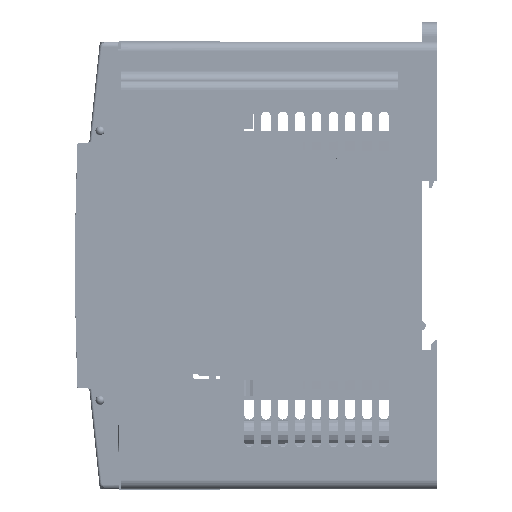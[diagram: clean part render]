
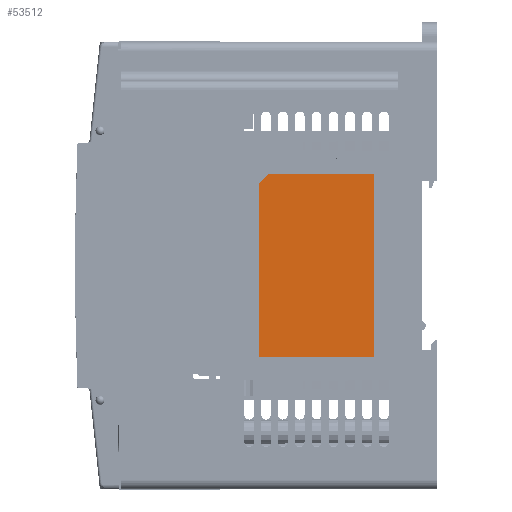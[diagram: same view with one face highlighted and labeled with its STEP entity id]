
A CAD part, left-side view. The second image highlights one B-rep face of the part: STEP entity #53512.
In plain terms, the highlighted planar face has unit normal (-1, 0, 0).
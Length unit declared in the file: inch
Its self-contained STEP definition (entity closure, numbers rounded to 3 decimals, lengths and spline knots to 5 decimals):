
#731 = VECTOR ( 'NONE', #7903, 39.37008 ) ;
#902 = DIRECTION ( 'NONE',  ( 1., 0., 0. ) ) ;
#6700 = DIRECTION ( 'NONE',  ( 0., 1., 0. ) ) ;
#6761 = DIRECTION ( 'NONE',  ( 0., 0.706, -0.708 ) ) ;
#7043 = LINE ( 'NONE', #35789, #11191 ) ;
#7300 = DIRECTION ( 'NONE',  ( 0., -1., 0. ) ) ;
#7367 = CARTESIAN_POINT ( 'NONE',  ( -1.76378, 1.37795, 0.74803 ) ) ;
#7559 = ORIENTED_EDGE ( 'NONE', *, *, #53644, .T. ) ;
#7903 = DIRECTION ( 'NONE',  ( 0., 0., -1. ) ) ;
#7942 = VERTEX_POINT ( 'NONE', #36463 ) ;
#8321 = VERTEX_POINT ( 'NONE', #18033 ) ;
#10683 = CARTESIAN_POINT ( 'NONE',  ( -1.76378, 0., 0. ) ) ;
#10989 = FACE_OUTER_BOUND ( 'NONE', #21493, .T. ) ;
#11191 = VECTOR ( 'NONE', #60161, 39.37008 ) ;
#14798 = ORIENTED_EDGE ( 'NONE', *, *, #24652, .T. ) ;
#14989 = PLANE ( 'NONE',  #42051 ) ;
#15967 = CARTESIAN_POINT ( 'NONE',  ( -1.76378, 0.51167, 0.74803 ) ) ;
#16486 = CARTESIAN_POINT ( 'NONE',  ( -1.76378, 0.51167, -0.74803 ) ) ;
#18033 = CARTESIAN_POINT ( 'NONE',  ( -1.76378, 1.45655, -0.74803 ) ) ;
#19572 = VECTOR ( 'NONE', #6761, 39.37008 ) ;
#19819 = ORIENTED_EDGE ( 'NONE', *, *, #37958, .T. ) ;
#21493 = EDGE_LOOP ( 'NONE', ( #7559, #44076, #19819, #30303, #14798 ) ) ;
#24652 = EDGE_CURVE ( 'NONE', #44895, #8321, #26872, .T. ) ;
#26691 = VERTEX_POINT ( 'NONE', #58179 ) ;
#26872 = LINE ( 'NONE', #54090, #731 ) ;
#28630 = EDGE_CURVE ( 'NONE', #26691, #44895, #43765, .T. ) ;
#30303 = ORIENTED_EDGE ( 'NONE', *, *, #28630, .T. ) ;
#32029 = VECTOR ( 'NONE', #34605, 39.37008 ) ;
#34605 = DIRECTION ( 'NONE',  ( 0., 1., 0. ) ) ;
#35750 = LINE ( 'NONE', #16486, #40000 ) ;
#35789 = CARTESIAN_POINT ( 'NONE',  ( -1.76378, 0.51167, -0.74803 ) ) ;
#36463 = CARTESIAN_POINT ( 'NONE',  ( -1.76378, 0.51167, -0.74803 ) ) ;
#37197 = CARTESIAN_POINT ( 'NONE',  ( -1.76378, 0.51167, 0.74803 ) ) ;
#37958 = EDGE_CURVE ( 'NONE', #42580, #26691, #39496, .T. ) ;
#39496 = LINE ( 'NONE', #15967, #32029 ) ;
#40000 = VECTOR ( 'NONE', #7300, 39.37008 ) ;
#42051 = AXIS2_PLACEMENT_3D ( 'NONE', #10683, #902, #6700 ) ;
#42580 = VERTEX_POINT ( 'NONE', #37197 ) ;
#43765 = LINE ( 'NONE', #7367, #19572 ) ;
#44076 = ORIENTED_EDGE ( 'NONE', *, *, #45200, .T. ) ;
#44895 = VERTEX_POINT ( 'NONE', #54201 ) ;
#45200 = EDGE_CURVE ( 'NONE', #7942, #42580, #7043, .T. ) ;
#53512 = ADVANCED_FACE ( 'NONE', ( #10989 ), #14989, .F. ) ;
#53644 = EDGE_CURVE ( 'NONE', #8321, #7942, #35750, .T. ) ;
#54090 = CARTESIAN_POINT ( 'NONE',  ( -1.76378, 1.45655, -0.74803 ) ) ;
#54201 = CARTESIAN_POINT ( 'NONE',  ( -1.76378, 1.45655, 0.66929 ) ) ;
#58179 = CARTESIAN_POINT ( 'NONE',  ( -1.76378, 1.37795, 0.74803 ) ) ;
#60161 = DIRECTION ( 'NONE',  ( 0., 0., 1. ) ) ;
